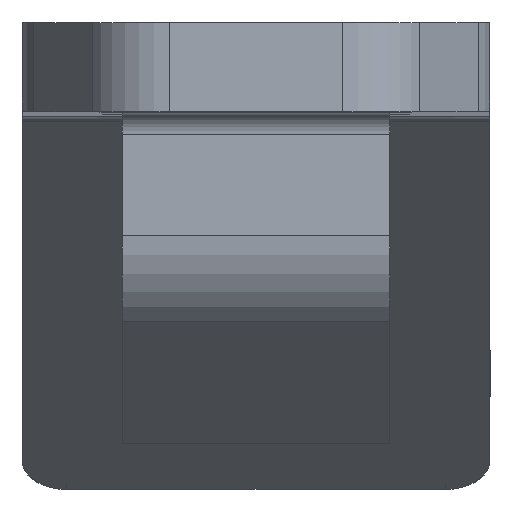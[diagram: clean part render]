
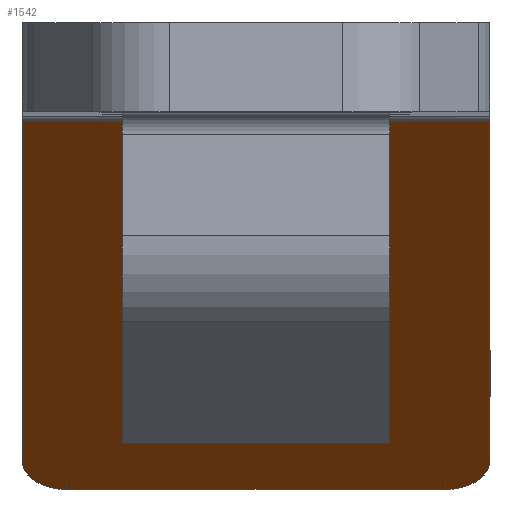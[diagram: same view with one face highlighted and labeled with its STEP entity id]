
A CAD part, top view. The second image highlights one B-rep face of the part: STEP entity #1542.
In plain terms, the highlighted planar face has unit normal (0, -0.766, 0.643).
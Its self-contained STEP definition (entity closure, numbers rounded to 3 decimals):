
#4 = CARTESIAN_POINT ( 'NONE',  ( 5.25, -10.356, -63.409 ) ) ;
#5 = DIRECTION ( 'NONE',  ( 0., 0.643, 0.766 ) ) ;
#31 = DIRECTION ( 'NONE',  ( 1., 0., 0. ) ) ;
#32 = CARTESIAN_POINT ( 'NONE',  ( -5.25, -2.117, -53.589 ) ) ;
#154 = FACE_OUTER_BOUND ( 'NONE', #763, .T. ) ;
#281 = EDGE_CURVE ( 'NONE', #1672, #1670, #936, .T. ) ;
#285 = EDGE_CURVE ( 'NONE', #1671, #1670, #944, .T. ) ;
#294 = EDGE_CURVE ( 'NONE', #1674, #1676, #958, .T. ) ;
#297 = EDGE_CURVE ( 'NONE', #1677, #1672, #965, .T. ) ;
#298 = EDGE_CURVE ( 'NONE', #1677, #1674, #967, .T. ) ;
#299 = EDGE_CURVE ( 'NONE', #1676, #1671, #969, .T. ) ;
#369 = AXIS2_PLACEMENT_3D ( 'NONE', #1259, #1258, #1257 ) ;
#426 = AXIS2_PLACEMENT_3D ( 'NONE', #1495, #1494, #1493 ) ;
#427 = AXIS2_PLACEMENT_3D ( 'NONE', #1500, #1497, #1496 ) ;
#559 = ORIENTED_EDGE ( 'NONE', *, *, #297, .F. ) ;
#560 = ORIENTED_EDGE ( 'NONE', *, *, #298, .T. ) ;
#561 = ORIENTED_EDGE ( 'NONE', *, *, #294, .T. ) ;
#562 = ORIENTED_EDGE ( 'NONE', *, *, #299, .T. ) ;
#563 = ORIENTED_EDGE ( 'NONE', *, *, #285, .T. ) ;
#564 = ORIENTED_EDGE ( 'NONE', *, *, #281, .F. ) ;
#763 = EDGE_LOOP ( 'NONE', ( #559, #560, #561, #562, #563, #564 ) ) ;
#936 = LINE ( 'NONE', #32, #938 ) ;
#938 = VECTOR ( 'NONE', #31, 1000. ) ;
#944 = LINE ( 'NONE', #4, #945 ) ;
#945 = VECTOR ( 'NONE', #5, 1000. ) ;
#958 = LINE ( 'NONE', #1491, #960 ) ;
#960 = VECTOR ( 'NONE', #1487, 1000. ) ;
#965 = LINE ( 'NONE', #1502, #966 ) ;
#966 = VECTOR ( 'NONE', #1501, 1000. ) ;
#967 = CIRCLE ( 'NONE', #427, 1. ) ;
#969 = CIRCLE ( 'NONE', #426, 1. ) ;
#1170 = CARTESIAN_POINT ( 'NONE',  ( -5.25, -9.713, -62.643 ) ) ;
#1171 = CARTESIAN_POINT ( 'NONE',  ( 4.25, -10.356, -63.409 ) ) ;
#1175 = CARTESIAN_POINT ( 'NONE',  ( -4.25, -10.356, -63.409 ) ) ;
#1177 = CARTESIAN_POINT ( 'NONE',  ( -5.25, -2.117, -53.589 ) ) ;
#1178 = CARTESIAN_POINT ( 'NONE',  ( 5.25, -9.713, -62.643 ) ) ;
#1179 = CARTESIAN_POINT ( 'NONE',  ( 5.25, -2.117, -53.589 ) ) ;
#1257 = DIRECTION ( 'NONE',  ( 0., -0.643, -0.766 ) ) ;
#1258 = DIRECTION ( 'NONE',  ( 0., 0.766, -0.643 ) ) ;
#1259 = CARTESIAN_POINT ( 'NONE',  ( -5.25, -10.356, -63.409 ) ) ;
#1261 = PLANE ( 'NONE',  #369 ) ;
#1487 = DIRECTION ( 'NONE',  ( 1., 0., 0. ) ) ;
#1491 = CARTESIAN_POINT ( 'NONE',  ( -5.25, -10.356, -63.409 ) ) ;
#1493 = DIRECTION ( 'NONE',  ( 0., -0.643, -0.766 ) ) ;
#1494 = DIRECTION ( 'NONE',  ( 0., -0.766, 0.643 ) ) ;
#1495 = CARTESIAN_POINT ( 'NONE',  ( 4.25, -9.713, -62.643 ) ) ;
#1496 = DIRECTION ( 'NONE',  ( 0., -0.643, -0.766 ) ) ;
#1497 = DIRECTION ( 'NONE',  ( 0., -0.766, 0.643 ) ) ;
#1500 = CARTESIAN_POINT ( 'NONE',  ( -4.25, -9.713, -62.643 ) ) ;
#1501 = DIRECTION ( 'NONE',  ( 0., 0.643, 0.766 ) ) ;
#1502 = CARTESIAN_POINT ( 'NONE',  ( -5.25, -10.356, -63.409 ) ) ;
#1542 = ADVANCED_FACE ( 'NONE', ( #154 ), #1261, .F. ) ;
#1670 = VERTEX_POINT ( 'NONE', #1179 ) ;
#1671 = VERTEX_POINT ( 'NONE', #1178 ) ;
#1672 = VERTEX_POINT ( 'NONE', #1177 ) ;
#1674 = VERTEX_POINT ( 'NONE', #1175 ) ;
#1676 = VERTEX_POINT ( 'NONE', #1171 ) ;
#1677 = VERTEX_POINT ( 'NONE', #1170 ) ;
